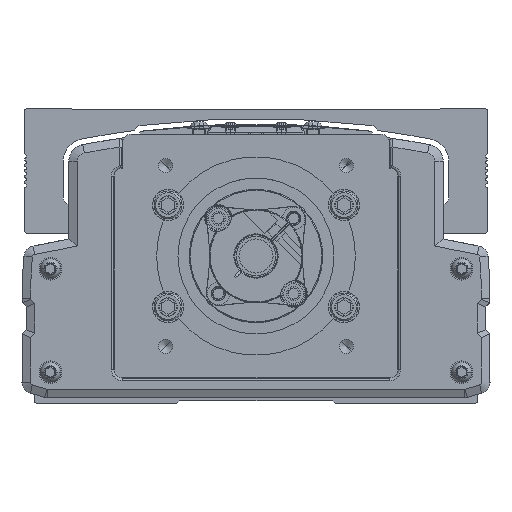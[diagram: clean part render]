
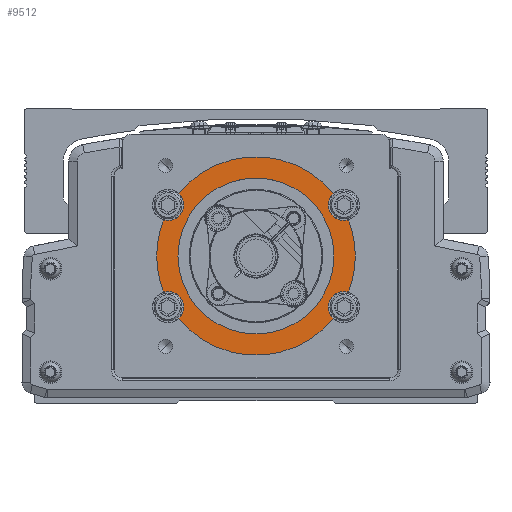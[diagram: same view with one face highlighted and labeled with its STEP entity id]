
A CAD part, front view. The second image highlights one B-rep face of the part: STEP entity #9512.
In plain terms, the highlighted planar face has unit normal (0, -1, 0).
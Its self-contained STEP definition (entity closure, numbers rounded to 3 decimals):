
#9512=ADVANCED_FACE('',(#19373,#19374),#19375,.F.);
#19373=FACE_OUTER_BOUND('',#32344,.T.);
#19374=FACE_BOUND('',#32345,.T.);
#19375=PLANE('',#32346);
#32344=EDGE_LOOP('',(#60005,#60006,#60007,#60008,#60009,#60010,#60011,#60012,#60013,#60014,#60015,#60016,#60017,#60018));
#32345=EDGE_LOOP('',(#60019,#60020));
#32346=AXIS2_PLACEMENT_3D('',#60021,#60022,#60023);
#60005=ORIENTED_EDGE('',*,*,#72843,.F.);
#60006=ORIENTED_EDGE('',*,*,#71725,.T.);
#60007=ORIENTED_EDGE('',*,*,#71693,.T.);
#60008=ORIENTED_EDGE('',*,*,#73465,.F.);
#60009=ORIENTED_EDGE('',*,*,#67282,.F.);
#60010=ORIENTED_EDGE('',*,*,#69675,.T.);
#60011=ORIENTED_EDGE('',*,*,#72186,.F.);
#60012=ORIENTED_EDGE('',*,*,#63033,.F.);
#60013=ORIENTED_EDGE('',*,*,#67456,.T.);
#60014=ORIENTED_EDGE('',*,*,#66608,.T.);
#60015=ORIENTED_EDGE('',*,*,#69450,.F.);
#60016=ORIENTED_EDGE('',*,*,#70483,.F.);
#60017=ORIENTED_EDGE('',*,*,#66847,.T.);
#60018=ORIENTED_EDGE('',*,*,#73466,.F.);
#60019=ORIENTED_EDGE('',*,*,#73467,.F.);
#60020=ORIENTED_EDGE('',*,*,#73319,.F.);
#60021=CARTESIAN_POINT('',(-600.,-396.778,0.));
#60022=DIRECTION('',(0.,1.0,0.));
#60023=DIRECTION('',(-1.0,0.,0.));
#63033=EDGE_CURVE('',#74909,#74911,#74912,.T.);
#66608=EDGE_CURVE('',#81042,#81046,#81048,.T.);
#66847=EDGE_CURVE('',#81437,#81434,#81438,.T.);
#67282=EDGE_CURVE('',#82102,#82104,#82105,.T.);
#67456=EDGE_CURVE('',#74909,#81042,#82364,.T.);
#69450=EDGE_CURVE('',#85317,#81046,#85319,.T.);
#69675=EDGE_CURVE('',#82102,#85632,#85634,.T.);
#70483=EDGE_CURVE('',#81437,#85317,#86699,.T.);
#71693=EDGE_CURVE('',#88211,#88216,#88218,.T.);
#71725=EDGE_CURVE('',#88261,#88211,#88262,.T.);
#72186=EDGE_CURVE('',#74911,#85632,#88797,.T.);
#72843=EDGE_CURVE('',#88261,#89546,#89547,.T.);
#73319=EDGE_CURVE('',#90064,#90066,#90067,.T.);
#73465=EDGE_CURVE('',#82104,#88216,#90219,.T.);
#73466=EDGE_CURVE('',#89546,#81434,#90220,.T.);
#73467=EDGE_CURVE('',#90066,#90064,#90221,.T.);
#74909=VERTEX_POINT('',#92414);
#74911=VERTEX_POINT('',#92417);
#74912=CIRCLE('',#92418,5.5);
#81042=VERTEX_POINT('',#101561);
#81046=VERTEX_POINT('',#101566);
#81048=CIRCLE('',#101569,35.0);
#81434=VERTEX_POINT('',#102075);
#81437=VERTEX_POINT('',#102079);
#81438=CIRCLE('',#102080,35.0);
#82102=VERTEX_POINT('',#103009);
#82104=VERTEX_POINT('',#103012);
#82105=CIRCLE('',#103013,5.5);
#82364=CIRCLE('',#103426,35.0);
#85317=VERTEX_POINT('',#107615);
#85319=CIRCLE('',#107618,5.5);
#85632=VERTEX_POINT('',#108059);
#85634=CIRCLE('',#108062,35.0);
#86699=CIRCLE('',#109603,5.5);
#88211=VERTEX_POINT('',#111805);
#88216=VERTEX_POINT('',#111811);
#88218=CIRCLE('',#111814,35.0);
#88261=VERTEX_POINT('',#111869);
#88262=CIRCLE('',#111870,35.0);
#88797=CIRCLE('',#112781,5.5);
#89546=VERTEX_POINT('',#113821);
#89547=CIRCLE('',#113822,5.5);
#90064=VERTEX_POINT('',#114514);
#90066=VERTEX_POINT('',#114517);
#90067=CIRCLE('',#114518,27.5);
#90219=CIRCLE('',#114744,5.5);
#90220=CIRCLE('',#114745,5.5);
#90221=CIRCLE('',#114746,27.5);
#92414=CARTESIAN_POINT('',(-567.4,-396.778,-12.738));
#92417=CARTESIAN_POINT('',(-574.5,-396.778,-18.));
#92418=AXIS2_PLACEMENT_3D('',#116043,#116044,#116045);
#101561=CARTESIAN_POINT('',(-565.,-396.778,0.));
#101566=CARTESIAN_POINT('',(-567.4,-396.778,12.738));
#101569=AXIS2_PLACEMENT_3D('',#121023,#121024,#121025);
#102075=CARTESIAN_POINT('',(-627.223,-396.778,21.998));
#102079=CARTESIAN_POINT('',(-572.777,-396.778,21.998));
#102080=AXIS2_PLACEMENT_3D('',#121377,#121378,#121379);
#103009=CARTESIAN_POINT('',(-627.223,-396.778,-21.998));
#103012=CARTESIAN_POINT('',(-625.5,-396.778,-18.));
#103013=AXIS2_PLACEMENT_3D('',#121952,#121953,#121954);
#103426=AXIS2_PLACEMENT_3D('',#122152,#122153,#122154);
#107615=CARTESIAN_POINT('',(-574.5,-396.778,18.));
#107618=AXIS2_PLACEMENT_3D('',#124920,#124921,#124922);
#108059=CARTESIAN_POINT('',(-572.777,-396.778,-21.998));
#108062=AXIS2_PLACEMENT_3D('',#125213,#125214,#125215);
#109603=AXIS2_PLACEMENT_3D('',#126176,#126177,#126178);
#111805=CARTESIAN_POINT('',(-635.,-396.778,0.));
#111811=CARTESIAN_POINT('',(-632.6,-396.778,-12.738));
#111814=AXIS2_PLACEMENT_3D('',#127672,#127673,#127674);
#111869=CARTESIAN_POINT('',(-632.6,-396.778,12.738));
#111870=AXIS2_PLACEMENT_3D('',#127711,#127712,#127713);
#112781=AXIS2_PLACEMENT_3D('',#128157,#128158,#128159);
#113821=CARTESIAN_POINT('',(-625.5,-396.778,18.));
#113822=AXIS2_PLACEMENT_3D('',#128879,#128880,#128881);
#114514=CARTESIAN_POINT('',(-627.5,-396.778,0.));
#114517=CARTESIAN_POINT('',(-572.5,-396.778,0.));
#114518=AXIS2_PLACEMENT_3D('',#129233,#129234,#129235);
#114744=AXIS2_PLACEMENT_3D('',#129299,#129300,#129301);
#114745=AXIS2_PLACEMENT_3D('',#129302,#129303,#129304);
#114746=AXIS2_PLACEMENT_3D('',#129305,#129306,#129307);
#116043=CARTESIAN_POINT('',(-569.,-396.778,-18.));
#116044=DIRECTION('',(0.,-1.0,0.));
#116045=DIRECTION('',(1.0,0.,0.));
#121023=CARTESIAN_POINT('',(-600.,-396.778,0.));
#121024=DIRECTION('',(0.,-1.0,0.));
#121025=DIRECTION('',(-1.0,0.,0.));
#121377=CARTESIAN_POINT('',(-600.,-396.778,0.));
#121378=DIRECTION('',(0.,-1.0,0.));
#121379=DIRECTION('',(-1.0,0.,0.));
#121952=CARTESIAN_POINT('',(-631.,-396.778,-18.));
#121953=DIRECTION('',(0.,-1.0,0.));
#121954=DIRECTION('',(-1.0,0.,0.));
#122152=CARTESIAN_POINT('',(-600.,-396.778,0.));
#122153=DIRECTION('',(0.,-1.0,0.));
#122154=DIRECTION('',(-1.0,0.,0.));
#124920=CARTESIAN_POINT('',(-569.,-396.778,18.));
#124921=DIRECTION('',(0.,-1.0,0.));
#124922=DIRECTION('',(1.0,0.,0.));
#125213=CARTESIAN_POINT('',(-600.,-396.778,0.));
#125214=DIRECTION('',(0.,-1.0,0.));
#125215=DIRECTION('',(-1.0,0.,0.));
#126176=CARTESIAN_POINT('',(-569.,-396.778,18.));
#126177=DIRECTION('',(0.,-1.0,0.));
#126178=DIRECTION('',(1.0,0.,0.));
#127672=CARTESIAN_POINT('',(-600.,-396.778,0.));
#127673=DIRECTION('',(0.,-1.0,0.));
#127674=DIRECTION('',(-1.0,0.,0.));
#127711=CARTESIAN_POINT('',(-600.,-396.778,0.));
#127712=DIRECTION('',(0.,-1.0,0.));
#127713=DIRECTION('',(-1.0,0.,0.));
#128157=CARTESIAN_POINT('',(-569.,-396.778,-18.));
#128158=DIRECTION('',(0.,-1.0,0.));
#128159=DIRECTION('',(1.0,0.,0.));
#128879=CARTESIAN_POINT('',(-631.,-396.778,18.));
#128880=DIRECTION('',(0.,-1.0,0.));
#128881=DIRECTION('',(-1.0,0.,0.));
#129233=CARTESIAN_POINT('',(-600.,-396.778,0.));
#129234=DIRECTION('',(0.,-1.0,0.));
#129235=DIRECTION('',(-1.0,0.,0.));
#129299=CARTESIAN_POINT('',(-631.,-396.778,-18.));
#129300=DIRECTION('',(0.,-1.0,0.));
#129301=DIRECTION('',(-1.0,0.,0.));
#129302=CARTESIAN_POINT('',(-631.,-396.778,18.));
#129303=DIRECTION('',(0.,-1.0,0.));
#129304=DIRECTION('',(-1.0,0.,0.));
#129305=CARTESIAN_POINT('',(-600.,-396.778,0.));
#129306=DIRECTION('',(0.,-1.0,0.));
#129307=DIRECTION('',(-1.0,0.,0.));
